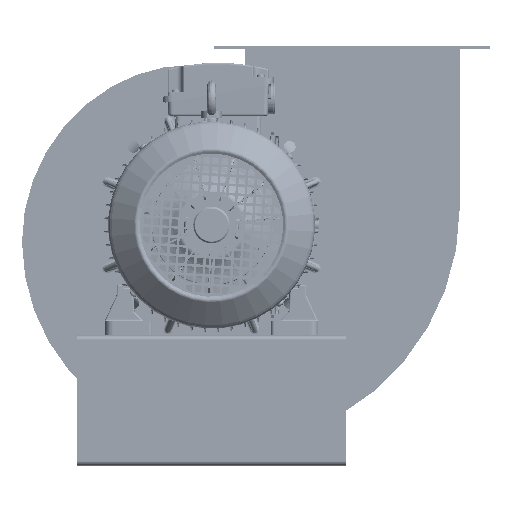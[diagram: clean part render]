
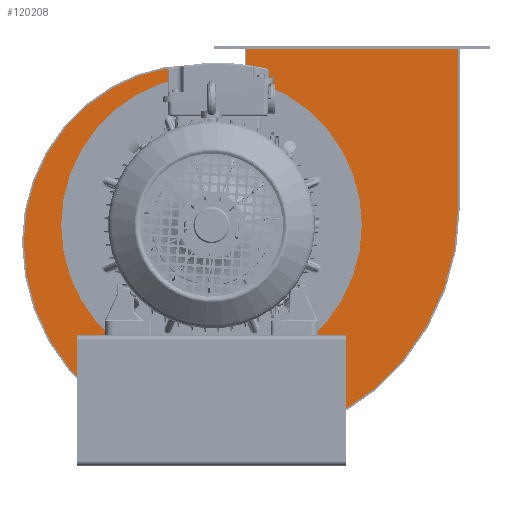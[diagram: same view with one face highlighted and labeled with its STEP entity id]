
A CAD part, left-side view. The second image highlights one B-rep face of the part: STEP entity #120208.
In plain terms, the highlighted planar face has unit normal (-1, 0, 0).
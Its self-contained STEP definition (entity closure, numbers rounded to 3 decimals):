
#7019=LINE('',#168672,#15566);
#7036=LINE('',#168850,#15583);
#7037=LINE('',#168852,#15584);
#15566=VECTOR('',#138266,25.352);
#15583=VECTOR('',#138467,19.072);
#15584=VECTOR('',#138468,3.272);
#24113=PLANE('',#127286);
#27241=FACE_BOUND('',#35396,.T.);
#27242=FACE_BOUND('',#35397,.T.);
#27243=FACE_BOUND('',#35398,.T.);
#27244=FACE_BOUND('',#35399,.T.);
#27245=FACE_BOUND('',#35400,.T.);
#27246=FACE_BOUND('',#35401,.T.);
#27247=FACE_BOUND('',#35402,.T.);
#27248=FACE_BOUND('',#35403,.T.);
#27249=FACE_BOUND('',#35404,.T.);
#27250=FACE_BOUND('',#35405,.T.);
#27251=FACE_BOUND('',#35406,.T.);
#27252=FACE_BOUND('',#35407,.T.);
#27253=FACE_BOUND('',#35408,.T.);
#28379=FACE_OUTER_BOUND('',#35395,.T.);
#35395=EDGE_LOOP('',(#76911,#76912,#76913,#76914,#76915,#76916,#76917,#76918));
#35396=EDGE_LOOP('',(#76919));
#35397=EDGE_LOOP('',(#76920));
#35398=EDGE_LOOP('',(#76921));
#35399=EDGE_LOOP('',(#76922));
#35400=EDGE_LOOP('',(#76923));
#35401=EDGE_LOOP('',(#76924));
#35402=EDGE_LOOP('',(#76925));
#35403=EDGE_LOOP('',(#76926));
#35404=EDGE_LOOP('',(#76927));
#35405=EDGE_LOOP('',(#76928));
#35406=EDGE_LOOP('',(#76929));
#35407=EDGE_LOOP('',(#76930));
#35408=EDGE_LOOP('',(#76931));
#43347=CIRCLE('',#127204,0.35);
#43349=CIRCLE('',#127207,0.35);
#43351=CIRCLE('',#127210,0.35);
#43353=CIRCLE('',#127213,0.35);
#43355=CIRCLE('',#127216,0.35);
#43357=CIRCLE('',#127219,0.35);
#43359=CIRCLE('',#127222,0.35);
#43361=CIRCLE('',#127225,0.35);
#43363=CIRCLE('',#127228,0.35);
#43365=CIRCLE('',#127231,0.35);
#43367=CIRCLE('',#127234,0.35);
#43369=CIRCLE('',#127237,0.35);
#43372=CIRCLE('',#127241,16.25);
#43404=CIRCLE('',#127287,23.694);
#43405=CIRCLE('',#127288,26.002);
#43406=CIRCLE('',#127289,28.343);
#43407=CIRCLE('',#127290,18.97);
#43408=CIRCLE('',#127291,21.319);
#47809=VERTEX_POINT('',#168669);
#47810=VERTEX_POINT('',#168671);
#47819=VERTEX_POINT('',#168700);
#47821=VERTEX_POINT('',#168705);
#47823=VERTEX_POINT('',#168710);
#47825=VERTEX_POINT('',#168715);
#47827=VERTEX_POINT('',#168720);
#47829=VERTEX_POINT('',#168725);
#47831=VERTEX_POINT('',#168730);
#47833=VERTEX_POINT('',#168735);
#47835=VERTEX_POINT('',#168740);
#47837=VERTEX_POINT('',#168745);
#47839=VERTEX_POINT('',#168750);
#47841=VERTEX_POINT('',#168755);
#47844=VERTEX_POINT('',#168762);
#47876=VERTEX_POINT('',#168843);
#47877=VERTEX_POINT('',#168844);
#47878=VERTEX_POINT('',#168846);
#47879=VERTEX_POINT('',#168848);
#47880=VERTEX_POINT('',#168851);
#47881=VERTEX_POINT('',#168853);
#59181=EDGE_CURVE('',#47809,#47810,#7019,.T.);
#59195=EDGE_CURVE('',#47819,#47819,#43347,.T.);
#59197=EDGE_CURVE('',#47821,#47821,#43349,.T.);
#59199=EDGE_CURVE('',#47823,#47823,#43351,.T.);
#59201=EDGE_CURVE('',#47825,#47825,#43353,.T.);
#59203=EDGE_CURVE('',#47827,#47827,#43355,.T.);
#59205=EDGE_CURVE('',#47829,#47829,#43357,.T.);
#59207=EDGE_CURVE('',#47831,#47831,#43359,.T.);
#59209=EDGE_CURVE('',#47833,#47833,#43361,.T.);
#59211=EDGE_CURVE('',#47835,#47835,#43363,.T.);
#59213=EDGE_CURVE('',#47837,#47837,#43365,.T.);
#59215=EDGE_CURVE('',#47839,#47839,#43367,.T.);
#59217=EDGE_CURVE('',#47841,#47841,#43369,.T.);
#59220=EDGE_CURVE('',#47844,#47844,#43372,.T.);
#59255=EDGE_CURVE('',#47876,#47877,#43404,.T.);
#59256=EDGE_CURVE('',#47878,#47876,#43405,.T.);
#59257=EDGE_CURVE('',#47879,#47878,#43406,.T.);
#59258=EDGE_CURVE('',#47810,#47879,#7036,.T.);
#59259=EDGE_CURVE('',#47880,#47809,#7037,.T.);
#59260=EDGE_CURVE('',#47881,#47880,#43407,.T.);
#59261=EDGE_CURVE('',#47877,#47881,#43408,.T.);
#76911=ORIENTED_EDGE('',*,*,#59255,.F.);
#76912=ORIENTED_EDGE('',*,*,#59256,.F.);
#76913=ORIENTED_EDGE('',*,*,#59257,.F.);
#76914=ORIENTED_EDGE('',*,*,#59258,.F.);
#76915=ORIENTED_EDGE('',*,*,#59181,.F.);
#76916=ORIENTED_EDGE('',*,*,#59259,.F.);
#76917=ORIENTED_EDGE('',*,*,#59260,.F.);
#76918=ORIENTED_EDGE('',*,*,#59261,.F.);
#76919=ORIENTED_EDGE('',*,*,#59195,.T.);
#76920=ORIENTED_EDGE('',*,*,#59197,.T.);
#76921=ORIENTED_EDGE('',*,*,#59199,.T.);
#76922=ORIENTED_EDGE('',*,*,#59201,.T.);
#76923=ORIENTED_EDGE('',*,*,#59203,.T.);
#76924=ORIENTED_EDGE('',*,*,#59205,.T.);
#76925=ORIENTED_EDGE('',*,*,#59207,.T.);
#76926=ORIENTED_EDGE('',*,*,#59209,.T.);
#76927=ORIENTED_EDGE('',*,*,#59211,.T.);
#76928=ORIENTED_EDGE('',*,*,#59213,.T.);
#76929=ORIENTED_EDGE('',*,*,#59215,.T.);
#76930=ORIENTED_EDGE('',*,*,#59217,.T.);
#76931=ORIENTED_EDGE('',*,*,#59220,.T.);
#120208=ADVANCED_FACE('',(#28379,#27241,#27242,#27243,#27244,#27245,#27246,
#27247,#27248,#27249,#27250,#27251,#27252,#27253),#24113,.T.);
#127204=AXIS2_PLACEMENT_3D('',#168701,#138292,#138293);
#127207=AXIS2_PLACEMENT_3D('',#168706,#138298,#138299);
#127210=AXIS2_PLACEMENT_3D('',#168711,#138304,#138305);
#127213=AXIS2_PLACEMENT_3D('',#168716,#138310,#138311);
#127216=AXIS2_PLACEMENT_3D('',#168721,#138316,#138317);
#127219=AXIS2_PLACEMENT_3D('',#168726,#138322,#138323);
#127222=AXIS2_PLACEMENT_3D('',#168731,#138328,#138329);
#127225=AXIS2_PLACEMENT_3D('',#168736,#138334,#138335);
#127228=AXIS2_PLACEMENT_3D('',#168741,#138340,#138341);
#127231=AXIS2_PLACEMENT_3D('',#168746,#138346,#138347);
#127234=AXIS2_PLACEMENT_3D('',#168751,#138352,#138353);
#127237=AXIS2_PLACEMENT_3D('',#168756,#138358,#138359);
#127241=AXIS2_PLACEMENT_3D('',#168763,#138366,#138367);
#127286=AXIS2_PLACEMENT_3D('',#168842,#138459,#138460);
#127287=AXIS2_PLACEMENT_3D('',#168845,#138461,#138462);
#127288=AXIS2_PLACEMENT_3D('',#168847,#138463,#138464);
#127289=AXIS2_PLACEMENT_3D('',#168849,#138465,#138466);
#127290=AXIS2_PLACEMENT_3D('',#168854,#138469,#138470);
#127291=AXIS2_PLACEMENT_3D('',#168855,#138471,#138472);
#138266=DIRECTION('',(0.,-1.,0.));
#138292=DIRECTION('center_axis',(1.,0.,0.));
#138293=DIRECTION('ref_axis',(0.,0.,
1.));
#138298=DIRECTION('center_axis',(1.,0.,0.));
#138299=DIRECTION('ref_axis',(0.,0.,
1.));
#138304=DIRECTION('center_axis',(1.,0.,0.));
#138305=DIRECTION('ref_axis',(0.,0.,
1.));
#138310=DIRECTION('center_axis',(1.,0.,0.));
#138311=DIRECTION('ref_axis',(0.,0.,
1.));
#138316=DIRECTION('center_axis',(1.,0.,0.));
#138317=DIRECTION('ref_axis',(0.,0.,
1.));
#138322=DIRECTION('center_axis',(1.,0.,0.));
#138323=DIRECTION('ref_axis',(0.,0.,
1.));
#138328=DIRECTION('center_axis',(1.,0.,0.));
#138329=DIRECTION('ref_axis',(0.,0.,
1.));
#138334=DIRECTION('center_axis',(1.,0.,0.));
#138335=DIRECTION('ref_axis',(0.,0.,
1.));
#138340=DIRECTION('center_axis',(1.,0.,0.));
#138341=DIRECTION('ref_axis',(0.,0.,
1.));
#138346=DIRECTION('center_axis',(1.,0.,0.));
#138347=DIRECTION('ref_axis',(0.,0.,
1.));
#138352=DIRECTION('center_axis',(1.,0.,0.));
#138353=DIRECTION('ref_axis',(0.,0.,
1.));
#138358=DIRECTION('center_axis',(1.,0.,0.));
#138359=DIRECTION('ref_axis',(0.,0.,
1.));
#138366=DIRECTION('center_axis',(1.,0.,0.));
#138367=DIRECTION('ref_axis',(0.,0.,
1.));
#138459=DIRECTION('center_axis',(-1.,0.,0.));
#138460=DIRECTION('ref_axis',(0.,0.,-1.));
#138461=DIRECTION('center_axis',(1.,0.,0.));
#138462=DIRECTION('ref_axis',(0.,1.,-0.001));
#138463=DIRECTION('center_axis',(1.,0.,0.));
#138464=DIRECTION('ref_axis',(0.,0.5,-0.866));
#138465=DIRECTION('center_axis',(1.,0.,0.));
#138466=DIRECTION('ref_axis',(0.,-0.5,-0.866));
#138467=DIRECTION('',(0.,0.,-1.));
#138468=DIRECTION('',(0.,0.,1.));
#138469=DIRECTION('center_axis',(1.,0.,0.));
#138470=DIRECTION('ref_axis',(0.,-0.343,0.939));
#138471=DIRECTION('center_axis',(1.,0.,0.));
#138472=DIRECTION('ref_axis',(0.,0.5,0.866));
#168669=CARTESIAN_POINT('',(5.2,-4.162,21.1));
#168671=CARTESIAN_POINT('',(5.2,-29.514,21.1));
#168672=CARTESIAN_POINT('',(5.2,-29.514,21.1));
#168700=CARTESIAN_POINT('',(5.2,-14.722,8.85));
#168701=CARTESIAN_POINT('Origin',(5.2,-14.722,8.5));
#168705=CARTESIAN_POINT('',(5.2,-17.,0.35));
#168706=CARTESIAN_POINT('Origin',(5.2,-17.,0.));
#168710=CARTESIAN_POINT('',(5.2,-14.722,-8.15));
#168711=CARTESIAN_POINT('Origin',(5.2,-14.722,-8.5));
#168715=CARTESIAN_POINT('',(5.2,-8.5,-14.372));
#168716=CARTESIAN_POINT('Origin',(5.2,-8.5,-14.722));
#168720=CARTESIAN_POINT('',(5.2,0.,-16.65));
#168721=CARTESIAN_POINT('Origin',(5.2,0.,-17.));
#168725=CARTESIAN_POINT('',(5.2,8.5,-14.372));
#168726=CARTESIAN_POINT('Origin',(5.2,8.5,-14.722));
#168730=CARTESIAN_POINT('',(5.2,14.722,-8.15));
#168731=CARTESIAN_POINT('Origin',(5.2,14.722,-8.5));
#168735=CARTESIAN_POINT('',(5.2,17.,0.35));
#168736=CARTESIAN_POINT('Origin',(5.2,17.,0.));
#168740=CARTESIAN_POINT('',(5.2,14.722,8.85));
#168741=CARTESIAN_POINT('Origin',(5.2,14.722,8.5));
#168745=CARTESIAN_POINT('',(5.2,8.5,15.072));
#168746=CARTESIAN_POINT('Origin',(5.2,8.5,14.722));
#168750=CARTESIAN_POINT('',(5.2,0.,17.35));
#168751=CARTESIAN_POINT('Origin',(5.2,0.,17.));
#168755=CARTESIAN_POINT('',(5.2,-8.5,15.072));
#168756=CARTESIAN_POINT('Origin',(5.2,-8.5,14.722));
#168762=CARTESIAN_POINT('',(5.2,0.,16.25));
#168763=CARTESIAN_POINT('Origin',(5.2,0.,0.));
#168842=CARTESIAN_POINT('Origin',(5.2,-5.104,-0.205));
#168843=CARTESIAN_POINT('',(5.2,10.659,-22.518));
#168844=CARTESIAN_POINT('',(5.2,22.49,-2.028));
#168845=CARTESIAN_POINT('Origin',(5.2,-1.204,-2.009));
#168846=CARTESIAN_POINT('',(5.2,-15.342,-22.518));
#168847=CARTESIAN_POINT('Origin',(5.2,-2.342,0.));
#168848=CARTESIAN_POINT('',(5.2,-29.514,2.028));
#168849=CARTESIAN_POINT('Origin',(5.2,-1.171,2.028));
#168850=CARTESIAN_POINT('',(5.2,-29.514,2.028));
#168851=CARTESIAN_POINT('',(5.2,-4.162,17.828));
#168852=CARTESIAN_POINT('',(5.2,-4.162,21.1));
#168853=CARTESIAN_POINT('',(5.2,11.83,16.435));
#168854=CARTESIAN_POINT('Origin',(5.2,2.342,0.008));
#168855=CARTESIAN_POINT('Origin',(5.2,1.171,-2.028));
